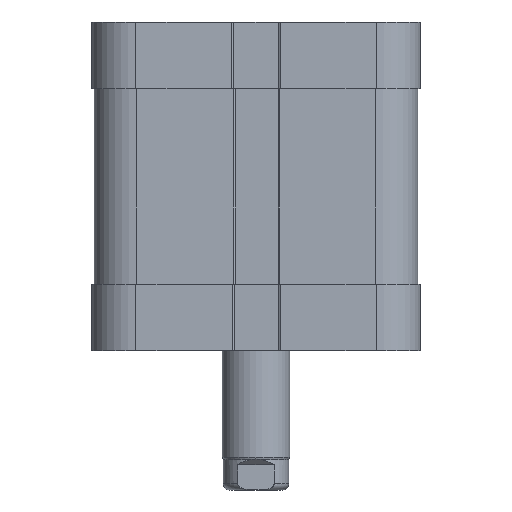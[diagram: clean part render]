
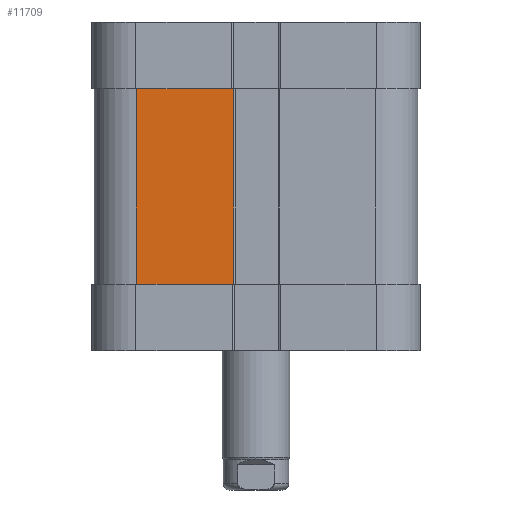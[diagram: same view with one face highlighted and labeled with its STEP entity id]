
A CAD part, front view. The second image highlights one B-rep face of the part: STEP entity #11709.
In plain terms, the highlighted planar face has unit normal (0, -1, 0).
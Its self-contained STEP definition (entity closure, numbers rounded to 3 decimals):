
#7457=CARTESIAN_POINT('',(6.4,-53.8,-11.6));
#7458=VERTEX_POINT('',#7457);
#7466=CARTESIAN_POINT('',(-16.75,-53.8,-11.6));
#7467=VERTEX_POINT('',#7466);
#7468=CARTESIAN_POINT('',(-16.75,-53.8,-11.6));
#7469=DIRECTION('',(1.0,0.0,0.0));
#7470=VECTOR('',#7469,23.15);
#7471=LINE('',#7468,#7470);
#7472=EDGE_CURVE('',#7467,#7458,#7471,.T.);
#8653=CARTESIAN_POINT('',(-16.75,-53.8,34.8));
#8654=VERTEX_POINT('',#8653);
#8662=CARTESIAN_POINT('',(6.3,-53.8,34.8));
#8663=VERTEX_POINT('',#8662);
#8664=CARTESIAN_POINT('',(6.3,-53.8,34.8));
#8665=DIRECTION('',(-1.0,0.0,0.0));
#8666=VECTOR('',#8665,23.05);
#8667=LINE('',#8664,#8666);
#8668=EDGE_CURVE('',#8663,#8654,#8667,.T.);
#9798=CARTESIAN_POINT('',(6.4,-53.8,34.8));
#9799=VERTEX_POINT('',#9798);
#9800=CARTESIAN_POINT('',(6.4,-53.8,34.8));
#9801=DIRECTION('',(-1.0,0.,0.));
#9802=VECTOR('',#9801,0.1);
#9803=LINE('',#9800,#9802);
#9804=EDGE_CURVE('',#9799,#8663,#9803,.T.);
#11629=CARTESIAN_POINT('',(6.4,-53.8,34.8));
#11630=DIRECTION('',(0.0,0.0,-1.0));
#11631=VECTOR('',#11630,46.4);
#11632=LINE('',#11629,#11631);
#11633=EDGE_CURVE('',#9799,#7458,#11632,.T.);
#11692=CARTESIAN_POINT('',(40.05,-53.8,-11.6));
#11693=DIRECTION('',(0.0,-1.0,0.0));
#11694=DIRECTION('',(0.0,0.0,-1.0));
#11695=AXIS2_PLACEMENT_3D('',#11692,#11693,#11694);
#11696=PLANE('',#11695);
#11697=ORIENTED_EDGE('',*,*,#11633,.F.);
#11698=ORIENTED_EDGE('',*,*,#9804,.T.);
#11699=ORIENTED_EDGE('',*,*,#8668,.T.);
#11700=CARTESIAN_POINT('',(-16.75,-53.8,-11.6));
#11701=DIRECTION('',(0.0,0.0,1.0));
#11702=VECTOR('',#11701,46.4);
#11703=LINE('',#11700,#11702);
#11704=EDGE_CURVE('',#7467,#8654,#11703,.T.);
#11705=ORIENTED_EDGE('',*,*,#11704,.F.);
#11706=ORIENTED_EDGE('',*,*,#7472,.T.);
#11707=EDGE_LOOP('',(#11697,#11698,#11699,#11705,#11706));
#11708=FACE_OUTER_BOUND('',#11707,.T.);
#11709=ADVANCED_FACE('',(#11708),#11696,.T.);
